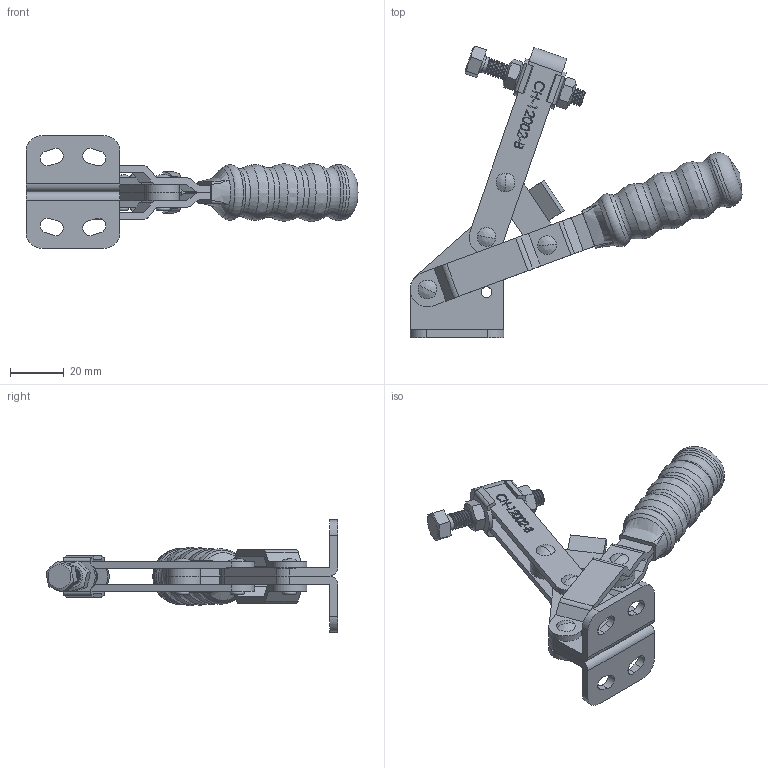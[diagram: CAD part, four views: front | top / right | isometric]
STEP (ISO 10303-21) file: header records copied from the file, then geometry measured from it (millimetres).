
FILE_DESCRIPTION(/* description */ ('STEP AP203'),/* implementation_level */ '2;1');
FILE_NAME(/* name */ 'D:\Vault_2016\Projekty\NASZ KATALOG\CLAMPTEK\STRONA\Vertical toggle clamp\CH-12002-B\CH-12002-B_OTWARTY.stp',/* time_stamp */ '2019-01-18T14:33:12+01:00',/* author */ ('CADENGINEERING4'),/* organization */ ('Î¢ÈíÖÐ¹ú'),/* preprocessor_version */ 'ST-DEVELOPER v17.2',/* originating_system */ 'Autodesk Inventor 2019',/* authorisation */ '');
FILE_SCHEMA (('AUTOMOTIVE_DESIGN { 1 0 10303 214 3 1 1 }'));
Products named in the file (10): CH-12002-B_OTWARTY; CH-12002-B-01 FLANGED BASE; CH-12002-B-02 U-BAR; M6 Nut; CH-SA-064010 SPINDLE SUPPLIED; CH-12002-B-07; CH-12002-B-04 CONNECTING-PLATE; CH-FW-140; CH-12002-B-06; CH-12002-B-03 HANDLE
Assembly tree (14 placements, depth 2):
  CH-12002-B_OTWARTY
    CH-12002-B-01 FLANGED BASE
    M6 Nut  x2
    CH-12002-B-02 U-BAR
    CH-12002-B-06  x4
    CH-FW-140  x2
    CH-SA-064010 SPINDLE SUPPLIED
    CH-12002-B-07
    CH-12002-B-04 CONNECTING-PLATE
    CH-12002-B-03 HANDLE
Bounding box: 123.62 x 108.6 x 42 mm (x, y, z)
Volume: 43180 mm3; surface area: 34560.2 mm2
Topology: 17 solids, 17 shells, 687 faces, 1927 edges, 1293 vertices
Faces by surface type: plane 296, bspline 203, cylinder 132, cone 44, torus 12
Full cylindrical faces by diameter (mm): 1.997 x1, 2.214 x1, 3.987 x4, 4 x18, 4.8 x10, 6 x37, 6.3 x2, 20.847 x1
Entity records: 38773 total; most frequent: CARTESIAN_POINT 23648, ORIENTED_EDGE 3466, DIRECTION 2381, EDGE_CURVE 1733, VERTEX_POINT 1169, LINE 943, VECTOR 943, AXIS2_PLACEMENT_3D 719
